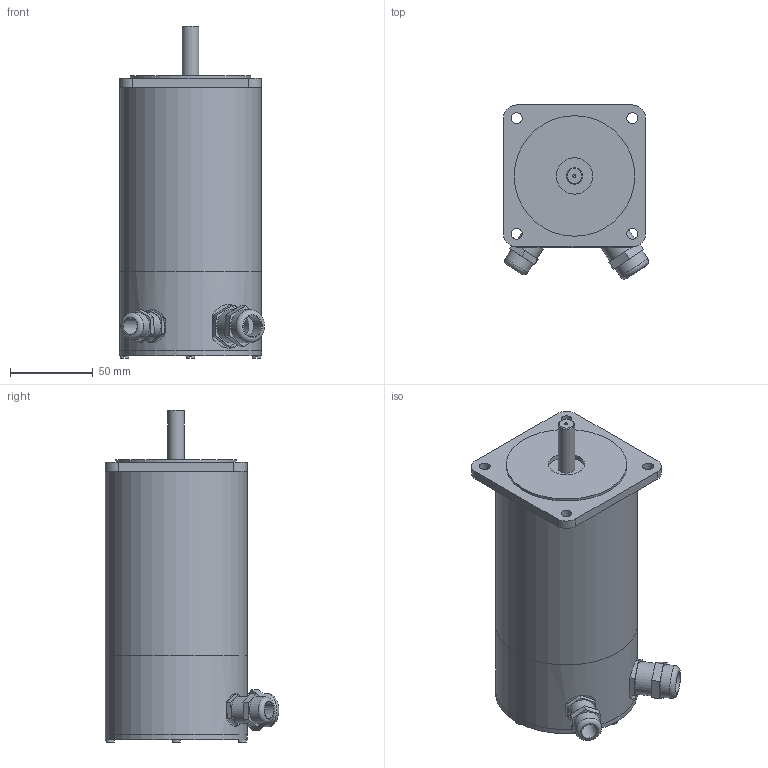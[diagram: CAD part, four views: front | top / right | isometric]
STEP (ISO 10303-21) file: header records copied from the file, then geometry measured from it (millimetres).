
FILE_DESCRIPTION((''),'2;1');
FILE_NAME('C:\Users\Reinhard\Documents\Inventor\Testschrittmotor\SM87\SM87.3-H200-KV.stp','2012-11-14T20:33:10',('Reinhard'),(''),'Autodesk Inventor 2012','Autodesk Inventor 2012','');
FILE_SCHEMA(('CONFIG_CONTROL_DESIGN'));
Length unit declared in the file: millimetre
Products named in the file (1): SM87
Bounding box: 87.8 x 105.15 x 201 mm (x, y, z)
Volume: 180452.2 mm3; surface area: 119332.4 mm2
Topology: 2 solids, 2 shells, 125 faces, 281 edges, 185 vertices
Faces by surface type: plane 79, cylinder 42, torus 2, cone 2
Full cylindrical faces by diameter (mm): 2 x1, 5 x4, 6.6 x4, 10 x2, 12 x2, 13 x2, 15 x1, 16 x2, 18.376 x1, 20 x3, 22 x1, 73 x1, 78 x2, 82 x1, 86 x3
Entity records: 3404 total; most frequent: CARTESIAN_POINT 674, DIRECTION 568, ORIENTED_EDGE 476, EDGE_CURVE 238, AXIS2_PLACEMENT_3D 218, EDGE_LOOP 198, VERTEX_POINT 176, VECTOR 132
